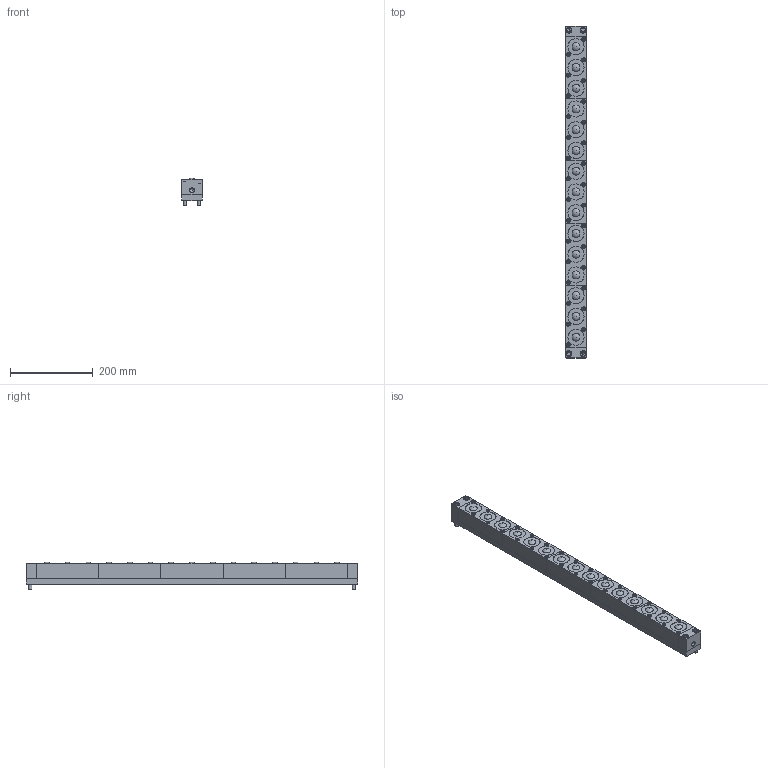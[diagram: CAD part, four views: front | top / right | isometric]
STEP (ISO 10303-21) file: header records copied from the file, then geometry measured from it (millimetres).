
FILE_DESCRIPTION(/* description */ (''),/* implementation_level */ '2;1');
FILE_NAME(/* name */ 'Z:\34-Tei\01-web 3Dデータ\08-ISR-C50S型\ISR-C50S-800-A.stp',/* time_stamp */ '2015-01-15T15:52:26+09:00',/* author */ ('yamaki'),/* organization */ (''),/* preprocessor_version */ 'ST-DEVELOPER v15.6',/* originating_system */ 'Autodesk Inventor 2015',/* authorisation */ '');
FILE_SCHEMA (('AUTOMOTIVE_DESIGN { 1 0 10303 214 3 1 1 }'));
Length unit declared in the file: millimetre
Products named in the file (5): 4200AT-01-800; ISO 4762 - M8 x 55ISO; 4601SL-3; 4600AA; ISR-C50S-100-A
Bounding box: 49.5 x 800 x 67 mm (x, y, z)
Volume: 1973206.9 mm3; surface area: 444830.3 mm2
Topology: 23 solids, 23 shells, 698 faces, 1466 edges, 945 vertices
Faces by surface type: plane 463, cylinder 133, cone 51, torus 36, sphere 15
Full cylindrical faces by diameter (mm): 8 x2, 8.5 x30, 9 x2, 9.5 x30, 10.5 x1, 13 x4, 14.5 x4, 38.7 x15, 39 x15, 42 x30
Entity records: 4970 total; most frequent: CARTESIAN_POINT 879, DIRECTION 804, ORIENTED_EDGE 676, EDGE_CURVE 338, AXIS2_PLACEMENT_3D 293, EDGE_LOOP 274, VERTEX_POINT 242, LINE 218
